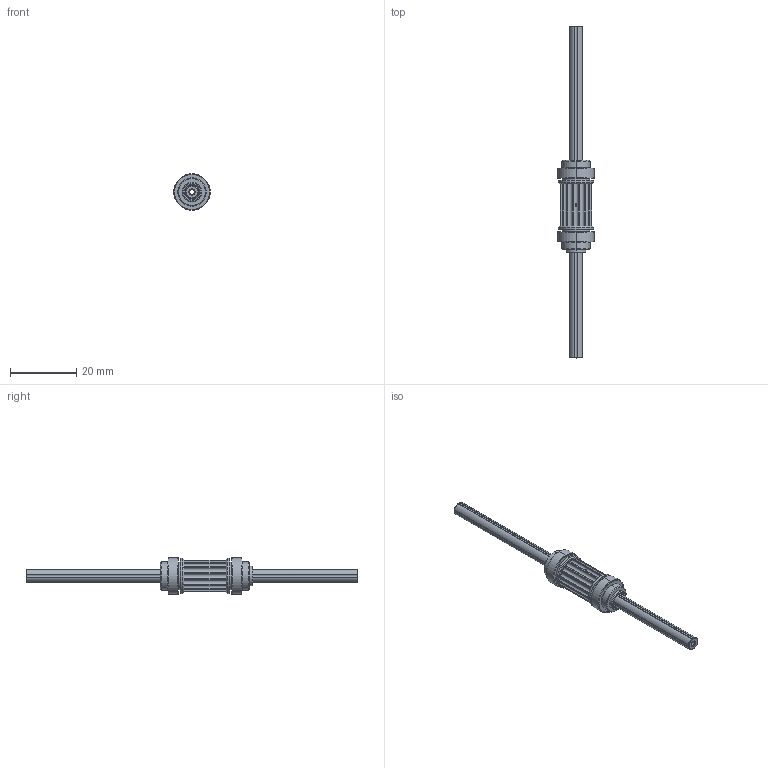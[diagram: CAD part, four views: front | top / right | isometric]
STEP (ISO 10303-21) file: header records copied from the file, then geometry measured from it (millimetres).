
FILE_DESCRIPTION (( 'STEP AP203' ), '1' );
FILE_NAME ('HRSU04-ST-GTM-100T-20_HP.STEP', '2023-03-31T01:26:49', ( '' ), ( '' ), 'SwSTEP 2.0', 'SolidWorks 2023', '' );
FILE_SCHEMA (( 'CONFIG_CONTROL_DESIGN' ));
Length unit declared in the file: millimetre
Products named in the file (1): HRSU04-ST-GTM-100T-20_HP
Bounding box: 11 x 100 x 11 mm (x, y, z)
Volume: 2534.4 mm3; surface area: 3519.9 mm2
Topology: 2 solids, 2 shells, 217 faces, 529 edges, 336 vertices
Faces by surface type: cylinder 152, cone 34, plane 23, torus 8
Entity records: 6654 total; most frequent: CARTESIAN_POINT 1255, DIRECTION 1237, ORIENTED_EDGE 1058, EDGE_CURVE 529, AXIS2_PLACEMENT_3D 526, VERTEX_POINT 336, CIRCLE 308, EDGE_LOOP 241
